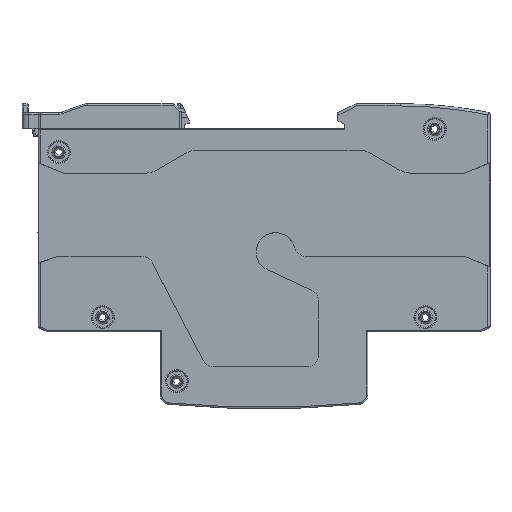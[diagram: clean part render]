
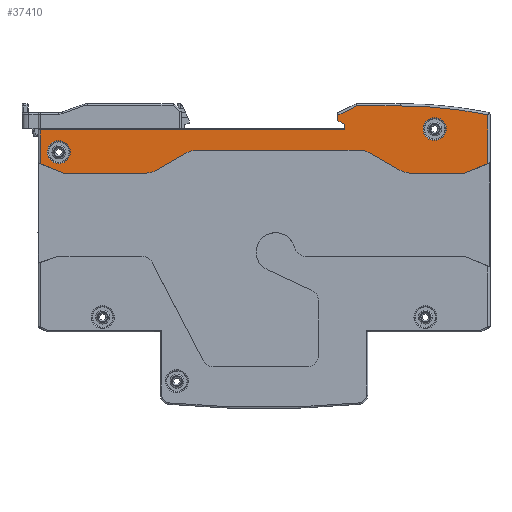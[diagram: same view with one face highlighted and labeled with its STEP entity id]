
A CAD part, front view. The second image highlights one B-rep face of the part: STEP entity #37410.
In plain terms, the highlighted planar face has unit normal (0, -1, 0).
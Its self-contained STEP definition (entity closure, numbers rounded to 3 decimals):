
#26267=DIRECTION('',(0.,0.,-1.));
#26268=VECTOR('',#26267,10.6);
#26269=CARTESIAN_POINT('',(48.5,-16.5,47.091));
#26270=LINE('',#26269,#26268);
#26332=CARTESIAN_POINT('',(20.6,-16.5,34.4));
#26333=DIRECTION('',(0.,1.,0.));
#26334=DIRECTION('',(0.,0.,1.));
#26335=AXIS2_PLACEMENT_3D('',#26332,#26333,#26334);
#26340=CARTESIAN_POINT('',(-14.5,-16.5,34.4));
#26341=DIRECTION('',(0.,1.,0.));
#26342=DIRECTION('',(-0.5,0.,0.866));
#26343=AXIS2_PLACEMENT_3D('',#26340,#26341,#26342);
#26348=DIRECTION('',(0.866,0.,0.5));
#26349=VECTOR('',#26348,7.321);
#26350=CARTESIAN_POINT('',(-23.34,-16.5,35.07));
#26351=LINE('',#26350,#26349);
#26355=CARTESIAN_POINT('',(-25.84,-16.5,39.4));
#26356=DIRECTION('',(0.,-1.,0.));
#26357=DIRECTION('',(0.,0.,-1.));
#26358=AXIS2_PLACEMENT_3D('',#26355,#26356,#26357);
#26363=DIRECTION('',(0.923,0.,-0.386));
#26364=VECTOR('',#26363,5.42);
#26365=CARTESIAN_POINT('',(-48.5,-16.5,36.491));
#26366=LINE('',#26365,#26364);
#26370=DIRECTION('',(0.,0.,-1.));
#26371=VECTOR('',#26370,1.2);
#26372=CARTESIAN_POINT('',(17.5,-16.5,45.));
#26373=LINE('',#26372,#26371);
#26377=DIRECTION('',(0.882,0.,-0.471));
#26378=VECTOR('',#26377,1.7);
#26379=CARTESIAN_POINT('',(16.,-16.5,45.8));
#26380=LINE('',#26379,#26378);
#26384=DIRECTION('',(-0.894,0.,-0.447));
#26385=VECTOR('',#26384,4.604);
#26386=CARTESIAN_POINT('',(20.118,-16.5,49.));
#26387=LINE('',#26386,#26385);
#26391=CARTESIAN_POINT('',(29.5,-16.5,-46.5));
#26392=DIRECTION('',(0.,-1.,0.));
#26393=DIRECTION('',(0.199,0.,0.98));
#26394=AXIS2_PLACEMENT_3D('',#26391,#26392,#26393);
#26399=DIRECTION('',(0.923,0.,0.386));
#26400=VECTOR('',#26399,5.42);
#26401=CARTESIAN_POINT('',(43.5,-16.5,34.4));
#26402=LINE('',#26401,#26400);
#26406=CARTESIAN_POINT('',(31.94,-16.5,39.4));
#26407=DIRECTION('',(0.,-1.,0.));
#26408=DIRECTION('',(-0.5,0.,-0.866));
#26409=AXIS2_PLACEMENT_3D('',#26406,#26407,#26408);
#26414=DIRECTION('',(0.866,0.,-0.5));
#26415=VECTOR('',#26414,7.321);
#26416=CARTESIAN_POINT('',(23.1,-16.5,38.73));
#26417=LINE('',#26416,#26415);
#26421=CARTESIAN_POINT('',(-44.5,-16.5,39.));
#26422=DIRECTION('',(0.,1.,0.));
#26423=DIRECTION('',(-1.,0.,0.));
#26424=AXIS2_PLACEMENT_3D('',#26421,#26422,#26423);
#26429=CARTESIAN_POINT('',(-44.5,-16.5,39.));
#26430=DIRECTION('',(0.,1.,0.));
#26431=DIRECTION('',(1.,0.,0.));
#26432=AXIS2_PLACEMENT_3D('',#26429,#26430,#26431);
#26437=CARTESIAN_POINT('',(37.,-16.5,44.));
#26438=DIRECTION('',(0.,1.,0.));
#26439=DIRECTION('',(-1.,0.,0.));
#26440=AXIS2_PLACEMENT_3D('',#26437,#26438,#26439);
#26445=CARTESIAN_POINT('',(37.,-16.5,44.));
#26446=DIRECTION('',(0.,1.,0.));
#26447=DIRECTION('',(1.,0.,0.));
#26448=AXIS2_PLACEMENT_3D('',#26445,#26446,#26447);
#26488=DIRECTION('',(-1.,0.,0.));
#26489=VECTOR('',#26488,11.56);
#26490=CARTESIAN_POINT('',(43.5,-16.5,34.4));
#26491=LINE('',#26490,#26489);
#26509=DIRECTION('',(-1.,0.,0.));
#26510=VECTOR('',#26509,35.1);
#26511=CARTESIAN_POINT('',(20.6,-16.5,39.4));
#26512=LINE('',#26511,#26510);
#26544=DIRECTION('',(-1.,0.,0.));
#26545=VECTOR('',#26544,17.66);
#26546=CARTESIAN_POINT('',(-25.84,-16.5,34.4));
#26547=LINE('',#26546,#26545);
#26590=DIRECTION('',(0.,0.,1.));
#26591=VECTOR('',#26590,7.309);
#26592=CARTESIAN_POINT('',(-48.5,-16.5,36.491));
#26593=LINE('',#26592,#26591);
#31595=DIRECTION('',(1.,0.,0.));
#31596=VECTOR('',#31595,9.382);
#31597=CARTESIAN_POINT('',(20.118,-16.5,49.));
#31598=LINE('',#31597,#31596);
#31636=DIRECTION('',(0.,0.,1.));
#31637=VECTOR('',#31636,1.141);
#31638=CARTESIAN_POINT('',(16.,-16.5,45.8));
#31639=LINE('',#31638,#31637);
#31901=DIRECTION('',(1.,0.,0.));
#31902=VECTOR('',#31901,66.);
#31903=CARTESIAN_POINT('',(-48.5,-16.5,43.8));
#31904=LINE('',#31903,#31902);
#32365=CARTESIAN_POINT('',(37.,-16.5,44.));
#32366=DIRECTION('',(0.,-1.,0.));
#32367=DIRECTION('',(-1.,0.,0.));
#32368=AXIS2_PLACEMENT_3D('',#32365,#32366,#32367);
#32405=CARTESIAN_POINT('',(37.,-16.5,44.));
#32406=DIRECTION('',(0.,-1.,0.));
#32407=DIRECTION('',(1.,0.,0.));
#32408=AXIS2_PLACEMENT_3D('',#32405,#32406,#32407);
#32698=CARTESIAN_POINT('',(-44.5,-16.5,39.));
#32699=DIRECTION('',(0.,-1.,0.));
#32700=DIRECTION('',(1.,0.,0.));
#32701=AXIS2_PLACEMENT_3D('',#32698,#32699,#32700);
#32706=CARTESIAN_POINT('',(-44.5,-16.5,39.));
#32707=DIRECTION('',(0.,-1.,0.));
#32708=DIRECTION('',(-1.,0.,0.));
#32709=AXIS2_PLACEMENT_3D('',#32706,#32707,#32708);
#34684=CARTESIAN_POINT('',(20.6,-16.5,39.4));
#34685=CARTESIAN_POINT('',(23.1,-16.5,38.73));
#34686=VERTEX_POINT('',#34684);
#34687=VERTEX_POINT('',#34685);
#34688=CARTESIAN_POINT('',(29.44,-16.5,35.07));
#34689=VERTEX_POINT('',#34688);
#34690=CARTESIAN_POINT('',(31.94,-16.5,34.4));
#34691=VERTEX_POINT('',#34690);
#34692=CARTESIAN_POINT('',(43.5,-16.5,34.4));
#34693=VERTEX_POINT('',#34692);
#34694=CARTESIAN_POINT('',(48.5,-16.5,36.491));
#34695=VERTEX_POINT('',#34694);
#34696=CARTESIAN_POINT('',(48.5,-16.5,47.091));
#34697=VERTEX_POINT('',#34696);
#34698=CARTESIAN_POINT('',(29.5,-16.5,49.));
#34699=VERTEX_POINT('',#34698);
#34700=CARTESIAN_POINT('',(20.118,-16.5,49.));
#34701=VERTEX_POINT('',#34700);
#34702=CARTESIAN_POINT('',(16.,-16.5,46.941));
#34703=VERTEX_POINT('',#34702);
#34704=CARTESIAN_POINT('',(16.,-16.5,45.8));
#34705=VERTEX_POINT('',#34704);
#34706=CARTESIAN_POINT('',(17.5,-16.5,45.));
#34707=VERTEX_POINT('',#34706);
#34708=CARTESIAN_POINT('',(17.5,-16.5,43.8));
#34709=VERTEX_POINT('',#34708);
#34710=CARTESIAN_POINT('',(-48.5,-16.5,43.8));
#34711=VERTEX_POINT('',#34710);
#34712=CARTESIAN_POINT('',(-48.5,-16.5,36.491));
#34713=VERTEX_POINT('',#34712);
#34714=CARTESIAN_POINT('',(-43.499,-16.5,34.4));
#34715=VERTEX_POINT('',#34714);
#34716=CARTESIAN_POINT('',(-25.84,-16.5,34.4));
#34717=VERTEX_POINT('',#34716);
#34718=CARTESIAN_POINT('',(-23.34,-16.5,35.07));
#34719=VERTEX_POINT('',#34718);
#34720=CARTESIAN_POINT('',(-17.,-16.5,38.73));
#34721=VERTEX_POINT('',#34720);
#34722=CARTESIAN_POINT('',(-14.5,-16.5,39.4));
#34723=VERTEX_POINT('',#34722);
#35346=CARTESIAN_POINT('',(39.5,-16.5,44.025));
#35347=VERTEX_POINT('',#35346);
#35348=CARTESIAN_POINT('',(34.5,-16.5,43.975));
#35349=VERTEX_POINT('',#35348);
#35350=CARTESIAN_POINT('',(34.5,-16.5,44.));
#35351=VERTEX_POINT('',#35350);
#35352=CARTESIAN_POINT('',(39.5,-16.5,44.));
#35353=VERTEX_POINT('',#35352);
#35518=CARTESIAN_POINT('',(-42.,-16.5,39.025));
#35519=VERTEX_POINT('',#35518);
#35520=CARTESIAN_POINT('',(-47.,-16.5,38.975));
#35521=VERTEX_POINT('',#35520);
#35522=CARTESIAN_POINT('',(-47.,-16.5,39.));
#35523=VERTEX_POINT('',#35522);
#35524=CARTESIAN_POINT('',(-42.,-16.5,39.));
#35525=VERTEX_POINT('',#35524);
#37344=CARTESIAN_POINT('',(0.,-16.5,0.));
#37345=DIRECTION('',(0.,1.,0.));
#37346=DIRECTION('',(-1.,0.,0.));
#37347=AXIS2_PLACEMENT_3D('',#37344,#37345,#37346);
#37348=PLANE('',#37347);
#37350=ORIENTED_EDGE('',*,*,#37349,.F.);
#37352=ORIENTED_EDGE('',*,*,#37351,.T.);
#37354=ORIENTED_EDGE('',*,*,#37353,.F.);
#37356=ORIENTED_EDGE('',*,*,#37355,.F.);
#37358=ORIENTED_EDGE('',*,*,#37357,.F.);
#37360=ORIENTED_EDGE('',*,*,#37359,.T.);
#37362=ORIENTED_EDGE('',*,*,#37361,.F.);
#37364=ORIENTED_EDGE('',*,*,#37363,.T.);
#37366=ORIENTED_EDGE('',*,*,#37365,.T.);
#37368=ORIENTED_EDGE('',*,*,#37367,.F.);
#37370=ORIENTED_EDGE('',*,*,#37369,.F.);
#37372=ORIENTED_EDGE('',*,*,#37371,.T.);
#37374=ORIENTED_EDGE('',*,*,#37373,.F.);
#37376=ORIENTED_EDGE('',*,*,#37375,.T.);
#37378=ORIENTED_EDGE('',*,*,#37377,.F.);
#37379=ORIENTED_EDGE('',*,*,#37319,.T.);
#37381=ORIENTED_EDGE('',*,*,#37380,.F.);
#37383=ORIENTED_EDGE('',*,*,#37382,.T.);
#37385=ORIENTED_EDGE('',*,*,#37384,.F.);
#37387=ORIENTED_EDGE('',*,*,#37386,.F.);
#37388=EDGE_LOOP('',(#37350,#37352,#37354,#37356,#37358,#37360,#37362,#37364,
#37366,#37368,#37370,#37372,#37374,#37376,#37378,#37379,#37381,#37383,#37385,
#37387));
#37389=FACE_OUTER_BOUND('',#37388,.F.);
#37391=ORIENTED_EDGE('',*,*,#37390,.F.);
#37393=ORIENTED_EDGE('',*,*,#37392,.T.);
#37395=ORIENTED_EDGE('',*,*,#37394,.F.);
#37397=ORIENTED_EDGE('',*,*,#37396,.T.);
#37398=EDGE_LOOP('',(#37391,#37393,#37395,#37397));
#37399=FACE_BOUND('',#37398,.F.);
#37401=ORIENTED_EDGE('',*,*,#37400,.F.);
#37403=ORIENTED_EDGE('',*,*,#37402,.T.);
#37405=ORIENTED_EDGE('',*,*,#37404,.F.);
#37407=ORIENTED_EDGE('',*,*,#37406,.T.);
#37408=EDGE_LOOP('',(#37401,#37403,#37405,#37407));
#37409=FACE_BOUND('',#37408,.F.);
#37410=ADVANCED_FACE('',(#37389,#37399,#37409),#37348,.F.);
#26336=CIRCLE('',#26335,5.);
#26344=CIRCLE('',#26343,5.);
#26359=CIRCLE('',#26358,5.);
#26395=CIRCLE('',#26394,95.5);
#26410=CIRCLE('',#26409,5.);
#26425=CIRCLE('',#26424,2.5);
#26433=CIRCLE('',#26432,2.5);
#26441=CIRCLE('',#26440,2.5);
#26449=CIRCLE('',#26448,2.5);
#32369=CIRCLE('',#32368,2.5);
#32409=CIRCLE('',#32408,2.5);
#32702=CIRCLE('',#32701,2.5);
#32710=CIRCLE('',#32709,2.5);
#37319=EDGE_CURVE('',#34697,#34695,#26270,.T.);
#37349=EDGE_CURVE('',#34686,#34687,#26336,.T.);
#37351=EDGE_CURVE('',#34686,#34723,#26512,.T.);
#37353=EDGE_CURVE('',#34721,#34723,#26344,.T.);
#37355=EDGE_CURVE('',#34719,#34721,#26351,.T.);
#37357=EDGE_CURVE('',#34717,#34719,#26359,.T.);
#37359=EDGE_CURVE('',#34717,#34715,#26547,.T.);
#37361=EDGE_CURVE('',#34713,#34715,#26366,.T.);
#37363=EDGE_CURVE('',#34713,#34711,#26593,.T.);
#37365=EDGE_CURVE('',#34711,#34709,#31904,.T.);
#37367=EDGE_CURVE('',#34707,#34709,#26373,.T.);
#37369=EDGE_CURVE('',#34705,#34707,#26380,.T.);
#37371=EDGE_CURVE('',#34705,#34703,#31639,.T.);
#37373=EDGE_CURVE('',#34701,#34703,#26387,.T.);
#37375=EDGE_CURVE('',#34701,#34699,#31598,.T.);
#37377=EDGE_CURVE('',#34697,#34699,#26395,.T.);
#37380=EDGE_CURVE('',#34693,#34695,#26402,.T.);
#37382=EDGE_CURVE('',#34693,#34691,#26491,.T.);
#37384=EDGE_CURVE('',#34689,#34691,#26410,.T.);
#37386=EDGE_CURVE('',#34687,#34689,#26417,.T.);
#37390=EDGE_CURVE('',#35523,#35519,#26425,.T.);
#37392=EDGE_CURVE('',#35523,#35521,#32710,.T.);
#37394=EDGE_CURVE('',#35525,#35521,#26433,.T.);
#37396=EDGE_CURVE('',#35525,#35519,#32702,.T.);
#37400=EDGE_CURVE('',#35351,#35347,#26441,.T.);
#37402=EDGE_CURVE('',#35351,#35349,#32369,.T.);
#37404=EDGE_CURVE('',#35353,#35349,#26449,.T.);
#37406=EDGE_CURVE('',#35353,#35347,#32409,.T.);
